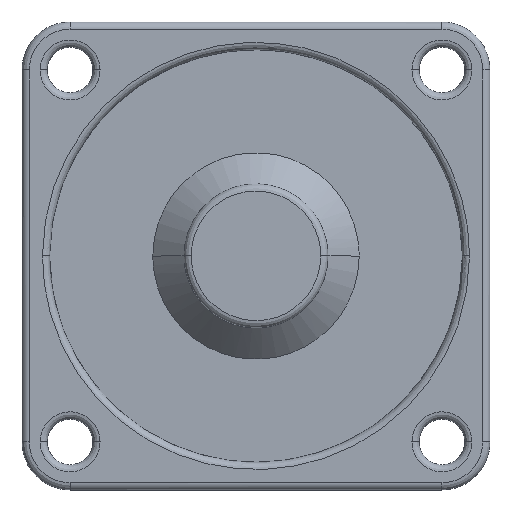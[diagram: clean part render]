
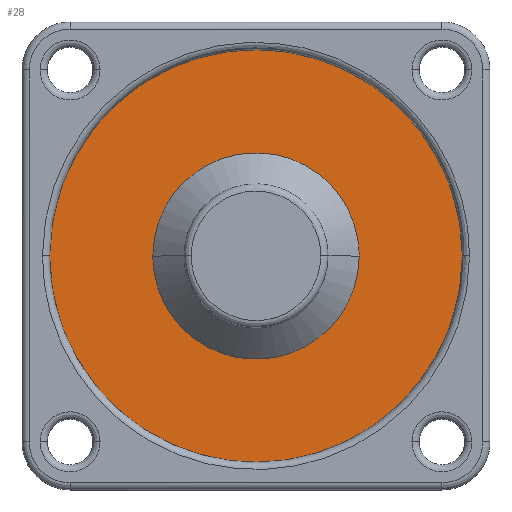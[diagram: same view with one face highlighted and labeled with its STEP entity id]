
A CAD part, top view. The second image highlights one B-rep face of the part: STEP entity #28.
In plain terms, the highlighted planar face has unit normal (0, 0, 1).
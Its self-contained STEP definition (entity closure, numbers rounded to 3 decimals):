
#16=FACE_BOUND('',#197,.T.);
#28=ADVANCED_FACE('',(#111,#16),#1267,.T.);
#111=FACE_OUTER_BOUND('',#196,.T.);
#196=EDGE_LOOP('',(#305,#306));
#197=EDGE_LOOP('',(#307,#308));
#305=ORIENTED_EDGE('',*,*,#700,.T.);
#306=ORIENTED_EDGE('',*,*,#867,.T.);
#307=ORIENTED_EDGE('',*,*,#705,.T.);
#308=ORIENTED_EDGE('',*,*,#836,.T.);
#700=EDGE_CURVE('',#1087,#1190,#940,.T.);
#705=EDGE_CURVE('',#1089,#1172,#944,.T.);
#836=EDGE_CURVE('',#1172,#1089,#1039,.T.);
#867=EDGE_CURVE('',#1190,#1087,#1065,.T.);
#940=(
BOUNDED_CURVE()
B_SPLINE_CURVE(2,(#2131,#2132,#2133,#2134,#2135),.UNSPECIFIED.,.F.,.F.)
B_SPLINE_CURVE_WITH_KNOTS((3,2,3),(0.,13.509,27.018),
 .UNSPECIFIED.)
CURVE()
GEOMETRIC_REPRESENTATION_ITEM()
RATIONAL_B_SPLINE_CURVE((1.,0.707,1.,0.707,1.))
REPRESENTATION_ITEM('')
);
#944=(
BOUNDED_CURVE()
B_SPLINE_CURVE(2,(#2147,#2148,#2149,#2150,#2151),.UNSPECIFIED.,.F.,.F.)
B_SPLINE_CURVE_WITH_KNOTS((3,2,3),(0.,6.754,13.509),
 .UNSPECIFIED.)
CURVE()
GEOMETRIC_REPRESENTATION_ITEM()
RATIONAL_B_SPLINE_CURVE((1.,0.707,1.,0.707,1.))
REPRESENTATION_ITEM('')
);
#1039=(
BOUNDED_CURVE()
B_SPLINE_CURVE(2,(#2556,#2557,#2558,#2559,#2560),.UNSPECIFIED.,.F.,.F.)
B_SPLINE_CURVE_WITH_KNOTS((3,2,3),(13.509,20.263,27.017),
 .UNSPECIFIED.)
CURVE()
GEOMETRIC_REPRESENTATION_ITEM()
RATIONAL_B_SPLINE_CURVE((1.,0.707,1.,0.707,1.))
REPRESENTATION_ITEM('')
);
#1065=(
BOUNDED_CURVE()
B_SPLINE_CURVE(2,(#2675,#2676,#2677,#2678,#2679),.UNSPECIFIED.,.F.,.F.)
B_SPLINE_CURVE_WITH_KNOTS((3,2,3),(27.018,40.527,54.035),
 .UNSPECIFIED.)
CURVE()
GEOMETRIC_REPRESENTATION_ITEM()
RATIONAL_B_SPLINE_CURVE((1.,0.707,1.,0.707,1.))
REPRESENTATION_ITEM('')
);
#1087=VERTEX_POINT('',#1973);
#1089=VERTEX_POINT('',#1975);
#1172=VERTEX_POINT('',#2058);
#1190=VERTEX_POINT('',#2076);
#1267=PLANE('',#1376);
#1376=AXIS2_PLACEMENT_3D('',#1480,#1428,$);
#1428=DIRECTION('',(0.,0.,1.));
#1480=CARTESIAN_POINT('',(8.6,8.6,1.));
#1973=CARTESIAN_POINT('',(-8.6,0.,1.));
#1975=CARTESIAN_POINT('',(-4.3,0.,1.));
#2058=CARTESIAN_POINT('',(4.3,0.,1.));
#2076=CARTESIAN_POINT('',(8.6,0.,1.));
#2131=CARTESIAN_POINT('',(-8.6,0.,1.));
#2132=CARTESIAN_POINT('',(-8.6,-8.6,1.));
#2133=CARTESIAN_POINT('',(0.,-8.6,1.));
#2134=CARTESIAN_POINT('',(8.6,-8.6,1.));
#2135=CARTESIAN_POINT('',(8.6,0.,1.));
#2147=CARTESIAN_POINT('',(-4.3,0.,1.));
#2148=CARTESIAN_POINT('',(-4.3,4.3,1.));
#2149=CARTESIAN_POINT('',(0.,4.3,1.));
#2150=CARTESIAN_POINT('',(4.3,4.3,1.));
#2151=CARTESIAN_POINT('',(4.3,0.,1.));
#2556=CARTESIAN_POINT('',(4.3,0.,1.));
#2557=CARTESIAN_POINT('',(4.3,-4.3,1.));
#2558=CARTESIAN_POINT('',(0.,-4.3,1.));
#2559=CARTESIAN_POINT('',(-4.3,-4.3,1.));
#2560=CARTESIAN_POINT('',(-4.3,0.,1.));
#2675=CARTESIAN_POINT('',(8.6,0.,1.));
#2676=CARTESIAN_POINT('',(8.6,8.6,1.));
#2677=CARTESIAN_POINT('',(0.,8.6,1.));
#2678=CARTESIAN_POINT('',(-8.6,8.6,1.));
#2679=CARTESIAN_POINT('',(-8.6,0.,1.));
